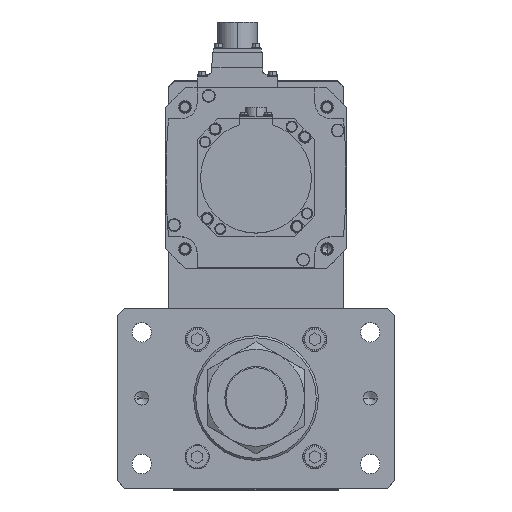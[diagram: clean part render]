
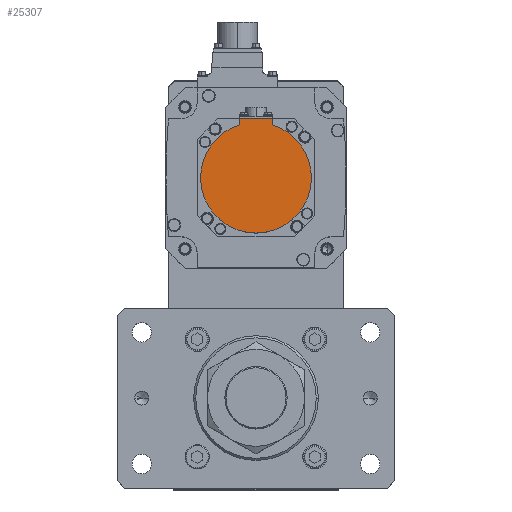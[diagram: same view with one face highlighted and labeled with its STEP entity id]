
A CAD part, top view. The second image highlights one B-rep face of the part: STEP entity #25307.
In plain terms, the highlighted planar face has unit normal (0, 0, 1) as drawn and (0, 0, -1) by its records, which use the part's own axes.
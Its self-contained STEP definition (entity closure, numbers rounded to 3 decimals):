
#185 = PLANE ( 'NONE',  #6477 ) ;
#237 = DIRECTION ( 'NONE',  ( 0., 0., 1. ) ) ;
#1766 = EDGE_CURVE ( 'NONE', #26666, #30768, #18698, .T. ) ;
#1857 = CIRCLE ( 'NONE', #15281, 40. ) ;
#2156 = DIRECTION ( 'NONE',  ( 1., 0., 0. ) ) ;
#2600 = CARTESIAN_POINT ( 'NONE',  ( 0., 0., -146.5 ) ) ;
#3106 = CARTESIAN_POINT ( 'NONE',  ( -12., -42.5, -146.5 ) ) ;
#3492 = LINE ( 'NONE', #10337, #27357 ) ;
#3668 = ORIENTED_EDGE ( 'NONE', *, *, #1766, .F. ) ;
#5307 = DIRECTION ( 'NONE',  ( 1., 0., 0. ) ) ;
#5726 = AXIS2_PLACEMENT_3D ( 'NONE', #24057, #237, #10854 ) ;
#5782 = EDGE_CURVE ( 'NONE', #30768, #34465, #7150, .T. ) ;
#5971 = ORIENTED_EDGE ( 'NONE', *, *, #15173, .F. ) ;
#6477 = AXIS2_PLACEMENT_3D ( 'NONE', #18742, #29056, #5307 ) ;
#7150 = CIRCLE ( 'NONE', #20642, 40. ) ;
#8017 = CARTESIAN_POINT ( 'NONE',  ( 12., -38.158, -146.5 ) ) ;
#8561 = ORIENTED_EDGE ( 'NONE', *, *, #27511, .T. ) ;
#9415 = CARTESIAN_POINT ( 'NONE',  ( 0., 0., -146.5 ) ) ;
#10337 = CARTESIAN_POINT ( 'NONE',  ( 0., -42.5, -146.5 ) ) ;
#10397 = VERTEX_POINT ( 'NONE', #8017 ) ;
#10854 = DIRECTION ( 'NONE',  ( 1., 0., 0. ) ) ;
#12771 = CARTESIAN_POINT ( 'NONE',  ( 12., -42.5, -146.5 ) ) ;
#14754 = DIRECTION ( 'NONE',  ( 1., 0., 0. ) ) ;
#15173 = EDGE_CURVE ( 'NONE', #27480, #10397, #26212, .T. ) ;
#15281 = AXIS2_PLACEMENT_3D ( 'NONE', #9415, #30804, #14754 ) ;
#16578 = LINE ( 'NONE', #32084, #26650 ) ;
#18004 = VERTEX_POINT ( 'NONE', #3106 ) ;
#18526 = CARTESIAN_POINT ( 'NONE',  ( -12., -38.158, -146.5 ) ) ;
#18698 = CIRCLE ( 'NONE', #5726, 40. ) ;
#18742 = CARTESIAN_POINT ( 'NONE',  ( 0., -1.249, -146.5 ) ) ;
#18795 = CARTESIAN_POINT ( 'NONE',  ( -40., 0., -146.5 ) ) ;
#20642 = AXIS2_PLACEMENT_3D ( 'NONE', #2600, #23498, #2156 ) ;
#21285 = EDGE_CURVE ( 'NONE', #27480, #18004, #3492, .T. ) ;
#21314 = DIRECTION ( 'NONE',  ( 0., 1., 0. ) ) ;
#21643 = DIRECTION ( 'NONE',  ( -1., 0., 0. ) ) ;
#22601 = EDGE_CURVE ( 'NONE', #10397, #26666, #1857, .T. ) ;
#23498 = DIRECTION ( 'NONE',  ( 0., 0., 1. ) ) ;
#23522 = DIRECTION ( 'NONE',  ( 0., 1., 0. ) ) ;
#23945 = EDGE_LOOP ( 'NONE', ( #8561, #27963, #3668, #34286, #5971, #27566 ) ) ;
#24057 = CARTESIAN_POINT ( 'NONE',  ( 0., 0., -146.5 ) ) ;
#25307 = ADVANCED_FACE ( 'NONE', ( #32188 ), #185, .F. ) ;
#26212 = LINE ( 'NONE', #28925, #31614 ) ;
#26650 = VECTOR ( 'NONE', #21314, 1000. ) ;
#26666 = VERTEX_POINT ( 'NONE', #27703 ) ;
#27357 = VECTOR ( 'NONE', #21643, 1000. ) ;
#27480 = VERTEX_POINT ( 'NONE', #12771 ) ;
#27511 = EDGE_CURVE ( 'NONE', #18004, #34465, #16578, .T. ) ;
#27566 = ORIENTED_EDGE ( 'NONE', *, *, #21285, .T. ) ;
#27703 = CARTESIAN_POINT ( 'NONE',  ( 40., 0., -146.5 ) ) ;
#27963 = ORIENTED_EDGE ( 'NONE', *, *, #5782, .F. ) ;
#28925 = CARTESIAN_POINT ( 'NONE',  ( 12., -1.249, -146.5 ) ) ;
#29056 = DIRECTION ( 'NONE',  ( 0., 0., 1. ) ) ;
#30768 = VERTEX_POINT ( 'NONE', #18795 ) ;
#30804 = DIRECTION ( 'NONE',  ( 0., 0., 1. ) ) ;
#31614 = VECTOR ( 'NONE', #23522, 1000. ) ;
#32084 = CARTESIAN_POINT ( 'NONE',  ( -12., -40.329, -146.5 ) ) ;
#32188 = FACE_OUTER_BOUND ( 'NONE', #23945, .T. ) ;
#34286 = ORIENTED_EDGE ( 'NONE', *, *, #22601, .F. ) ;
#34465 = VERTEX_POINT ( 'NONE', #18526 ) ;
